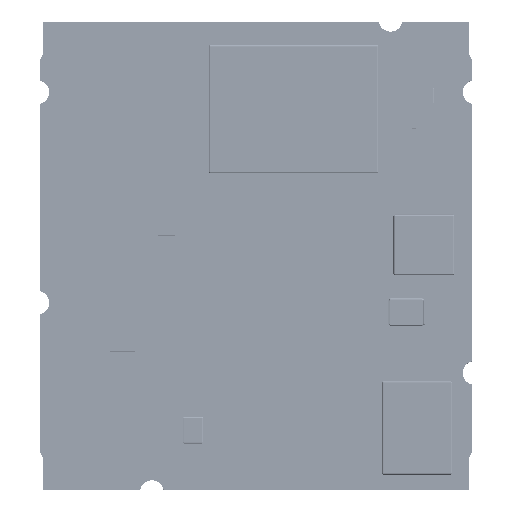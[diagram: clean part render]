
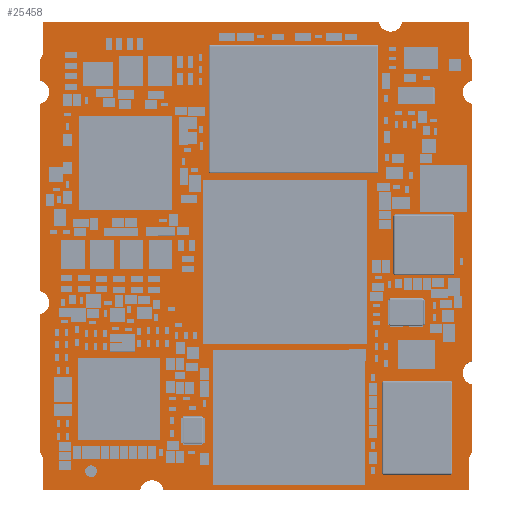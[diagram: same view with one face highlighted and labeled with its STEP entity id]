
A CAD part, top view. The second image highlights one B-rep face of the part: STEP entity #25458.
In plain terms, the highlighted planar face has unit normal (0, 0, 1).
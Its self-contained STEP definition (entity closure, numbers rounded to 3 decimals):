
#25458=ADVANCED_FACE('',(#46320),#46321,.T.);
#46320=FACE_OUTER_BOUND('',#70003,.T.);
#46321=PLANE('',#70004);
#70003=EDGE_LOOP('',(#99988,#99989,#99990,#99991,#99992,#99993,#99994,#99995,#99996,#99997,#99998,#99999,#100000,#100001,#100002,#100003,#100004,#100005,#100006,#100007,#100008,#100009,#100010,#100011));
#70004=AXIS2_PLACEMENT_3D('',#100012,#100013,#100014);
#99988=ORIENTED_EDGE('',*,*,#111523,.T.);
#99989=ORIENTED_EDGE('',*,*,#111531,.T.);
#99990=ORIENTED_EDGE('',*,*,#111518,.T.);
#99991=ORIENTED_EDGE('',*,*,#111532,.T.);
#99992=ORIENTED_EDGE('',*,*,#111533,.T.);
#99993=ORIENTED_EDGE('',*,*,#111534,.T.);
#99994=ORIENTED_EDGE('',*,*,#111535,.T.);
#99995=ORIENTED_EDGE('',*,*,#111536,.T.);
#99996=ORIENTED_EDGE('',*,*,#111537,.T.);
#99997=ORIENTED_EDGE('',*,*,#111538,.T.);
#99998=ORIENTED_EDGE('',*,*,#111539,.T.);
#99999=ORIENTED_EDGE('',*,*,#111540,.T.);
#100000=ORIENTED_EDGE('',*,*,#111541,.T.);
#100001=ORIENTED_EDGE('',*,*,#111542,.T.);
#100002=ORIENTED_EDGE('',*,*,#111543,.T.);
#100003=ORIENTED_EDGE('',*,*,#111544,.T.);
#100004=ORIENTED_EDGE('',*,*,#111545,.T.);
#100005=ORIENTED_EDGE('',*,*,#111546,.T.);
#100006=ORIENTED_EDGE('',*,*,#111547,.T.);
#100007=ORIENTED_EDGE('',*,*,#111528,.T.);
#100008=ORIENTED_EDGE('',*,*,#111548,.T.);
#100009=ORIENTED_EDGE('',*,*,#111549,.T.);
#100010=ORIENTED_EDGE('',*,*,#111550,.T.);
#100011=ORIENTED_EDGE('',*,*,#111551,.T.);
#100012=CARTESIAN_POINT('',(18.213,20.072,1.825));
#100013=DIRECTION('',(0.,0.,1.0));
#100014=DIRECTION('',(1.0,0.0,0.));
#111518=EDGE_CURVE('',#124687,#124685,#124688,.T.);
#111523=EDGE_CURVE('',#124696,#124694,#124697,.T.);
#111528=EDGE_CURVE('',#124705,#124703,#124706,.T.);
#111531=EDGE_CURVE('',#124694,#124687,#124709,.T.);
#111532=EDGE_CURVE('',#124685,#124710,#124711,.T.);
#111533=EDGE_CURVE('',#124710,#124712,#124713,.T.);
#111534=EDGE_CURVE('',#124712,#124714,#124715,.T.);
#111535=EDGE_CURVE('',#124714,#124716,#124717,.T.);
#111536=EDGE_CURVE('',#124716,#124718,#124719,.T.);
#111537=EDGE_CURVE('',#124718,#124720,#124721,.T.);
#111538=EDGE_CURVE('',#124720,#124722,#124723,.T.);
#111539=EDGE_CURVE('',#124722,#124724,#124725,.T.);
#111540=EDGE_CURVE('',#124724,#124726,#124727,.T.);
#111541=EDGE_CURVE('',#124726,#124728,#124729,.T.);
#111542=EDGE_CURVE('',#124728,#124730,#124731,.T.);
#111543=EDGE_CURVE('',#124730,#124732,#124733,.T.);
#111544=EDGE_CURVE('',#124732,#124734,#124735,.T.);
#111545=EDGE_CURVE('',#124734,#124736,#124737,.T.);
#111546=EDGE_CURVE('',#124736,#124738,#124739,.T.);
#111547=EDGE_CURVE('',#124738,#124705,#124740,.T.);
#111548=EDGE_CURVE('',#124703,#124741,#124742,.T.);
#111549=EDGE_CURVE('',#124741,#124743,#124744,.T.);
#111550=EDGE_CURVE('',#124743,#124745,#124746,.T.);
#111551=EDGE_CURVE('',#124745,#124696,#124747,.T.);
#124685=VERTEX_POINT('',#140691);
#124687=VERTEX_POINT('',#140694);
#124688=CIRCLE('',#140695,1.025);
#124694=VERTEX_POINT('',#140702);
#124696=VERTEX_POINT('',#140705);
#124697=CIRCLE('',#140706,1.025);
#124703=VERTEX_POINT('',#140713);
#124705=VERTEX_POINT('',#140716);
#124706=CIRCLE('',#140717,1.025);
#124709=LINE('',#140721,#140722);
#124710=VERTEX_POINT('',#140723);
#124711=LINE('',#140724,#140725);
#124712=VERTEX_POINT('',#140726);
#124713=CIRCLE('',#140727,1.);
#124714=VERTEX_POINT('',#140728);
#124715=LINE('',#140729,#140730);
#124716=VERTEX_POINT('',#140731);
#124717=LINE('',#140732,#140733);
#124718=VERTEX_POINT('',#140734);
#124719=CIRCLE('',#140735,1.025);
#124720=VERTEX_POINT('',#140736);
#124721=LINE('',#140737,#140738);
#124722=VERTEX_POINT('',#140739);
#124723=LINE('',#140740,#140741);
#124724=VERTEX_POINT('',#140742);
#124725=CIRCLE('',#140743,1.0);
#124726=VERTEX_POINT('',#140744);
#124727=LINE('',#140745,#140746);
#124728=VERTEX_POINT('',#140747);
#124729=CIRCLE('',#140748,1.025);
#124730=VERTEX_POINT('',#140749);
#124731=LINE('',#140750,#140751);
#124732=VERTEX_POINT('',#140752);
#124733=CIRCLE('',#140753,1.025);
#124734=VERTEX_POINT('',#140754);
#124735=LINE('',#140755,#140756);
#124736=VERTEX_POINT('',#140757);
#124737=CIRCLE('',#140758,1.);
#124738=VERTEX_POINT('',#140759);
#124739=LINE('',#140760,#140761);
#124740=LINE('',#140762,#140763);
#124741=VERTEX_POINT('',#140764);
#124742=LINE('',#140765,#140766);
#124743=VERTEX_POINT('',#140767);
#124744=LINE('',#140768,#140769);
#124745=VERTEX_POINT('',#140770);
#124746=CIRCLE('',#140771,1.0);
#124747=LINE('',#140772,#140773);
#140691=CARTESIAN_POINT('',(-0.3,14.995,1.825));
#140694=CARTESIAN_POINT('',(-0.3,17.005,1.825));
#140695=AXIS2_PLACEMENT_3D('',#154691,#154692,#154693);
#140702=CARTESIAN_POINT('',(-0.3,32.995,1.825));
#140705=CARTESIAN_POINT('',(-0.3,35.005,1.825));
#140706=AXIS2_PLACEMENT_3D('',#154699,#154700,#154701);
#140713=CARTESIAN_POINT('',(28.695,40.0,1.825));
#140716=CARTESIAN_POINT('',(30.705,40.0,1.825));
#140717=AXIS2_PLACEMENT_3D('',#154707,#154708,#154709);
#140721=CARTESIAN_POINT('',(-0.3,25.0,1.825));
#140722=VECTOR('',#154711,1.0);
#140723=CARTESIAN_POINT('',(-0.3,3.214,1.825));
#140724=CARTESIAN_POINT('',(-0.3,9.104,1.825));
#140725=VECTOR('',#154712,1.0);
#140726=CARTESIAN_POINT('',(0.,2.5,1.825));
#140727=AXIS2_PLACEMENT_3D('',#154713,#154714,#154715);
#140728=CARTESIAN_POINT('',(0.,0.,1.825));
#140729=CARTESIAN_POINT('',(0.,1.25,1.825));
#140730=VECTOR('',#154716,1.0);
#140731=CARTESIAN_POINT('',(8.295,0.,1.825));
#140732=CARTESIAN_POINT('',(4.147,0.,1.825));
#140733=VECTOR('',#154717,1.0);
#140734=CARTESIAN_POINT('',(10.305,0.,1.825));
#140735=AXIS2_PLACEMENT_3D('',#154718,#154719,#154720);
#140736=CARTESIAN_POINT('',(36.4,0.,1.825));
#140737=CARTESIAN_POINT('',(23.353,0.,1.825));
#140738=VECTOR('',#154721,1.0);
#140739=CARTESIAN_POINT('',(36.4,2.5,1.825));
#140740=CARTESIAN_POINT('',(36.4,1.25,1.825));
#140741=VECTOR('',#154722,1.0);
#140742=CARTESIAN_POINT('',(36.7,3.214,1.825));
#140743=AXIS2_PLACEMENT_3D('',#154723,#154724,#154725);
#140744=CARTESIAN_POINT('',(36.7,8.995,1.825));
#140745=CARTESIAN_POINT('',(36.7,6.104,1.825));
#140746=VECTOR('',#154726,1.0);
#140747=CARTESIAN_POINT('',(36.7,11.005,1.825));
#140748=AXIS2_PLACEMENT_3D('',#154727,#154728,#154729);
#140749=CARTESIAN_POINT('',(36.7,32.995,1.825));
#140750=CARTESIAN_POINT('',(36.7,22.0,1.825));
#140751=VECTOR('',#154730,1.0);
#140752=CARTESIAN_POINT('',(36.7,35.005,1.825));
#140753=AXIS2_PLACEMENT_3D('',#154731,#154732,#154733);
#140754=CARTESIAN_POINT('',(36.7,36.786,1.825));
#140755=CARTESIAN_POINT('',(36.7,35.896,1.825));
#140756=VECTOR('',#154734,1.0);
#140757=CARTESIAN_POINT('',(36.4,37.5,1.825));
#140758=AXIS2_PLACEMENT_3D('',#154735,#154736,#154737);
#140759=CARTESIAN_POINT('',(36.4,40.0,1.825));
#140760=CARTESIAN_POINT('',(36.4,38.75,1.825));
#140761=VECTOR('',#154738,1.0);
#140762=CARTESIAN_POINT('',(33.553,40.0,1.825));
#140763=VECTOR('',#154739,1.0);
#140764=CARTESIAN_POINT('',(0.,40.0,1.825));
#140765=CARTESIAN_POINT('',(14.347,40.0,1.825));
#140766=VECTOR('',#154740,1.0);
#140767=CARTESIAN_POINT('',(0.,37.5,1.825));
#140768=CARTESIAN_POINT('',(0.,38.75,1.825));
#140769=VECTOR('',#154741,1.0);
#140770=CARTESIAN_POINT('',(-0.3,36.786,1.825));
#140771=AXIS2_PLACEMENT_3D('',#154742,#154743,#154744);
#140772=CARTESIAN_POINT('',(-0.3,35.896,1.825));
#140773=VECTOR('',#154745,1.0);
#154691=CARTESIAN_POINT('',(-0.5,16.0,1.825));
#154692=DIRECTION('',(0.0,0.0,-1.0));
#154693=DIRECTION('',(0.195,0.981,0.0));
#154699=CARTESIAN_POINT('',(-0.5,34.0,1.825));
#154700=DIRECTION('',(0.0,0.0,-1.0));
#154701=DIRECTION('',(0.195,0.981,0.0));
#154707=CARTESIAN_POINT('',(29.7,40.2,1.825));
#154708=DIRECTION('',(0.0,0.0,-1.0));
#154709=DIRECTION('',(0.981,-0.195,0.0));
#154711=DIRECTION('',(0.,-1.0,0.0));
#154712=DIRECTION('',(0.,-1.0,0.0));
#154713=CARTESIAN_POINT('',(-1.0,2.5,1.825));
#154714=DIRECTION('',(0.0,0.0,-1.0));
#154715=DIRECTION('',(0.7,0.714,0.0));
#154716=DIRECTION('',(0.,-1.,0.0));
#154717=DIRECTION('',(1.0,0.0,0.0));
#154718=CARTESIAN_POINT('',(9.3,-0.2,1.825));
#154719=DIRECTION('',(0.0,0.0,-1.0));
#154720=DIRECTION('',(-0.981,0.195,0.0));
#154721=DIRECTION('',(1.0,0.,0.0));
#154722=DIRECTION('',(0.0,1.0,0.0));
#154723=CARTESIAN_POINT('',(37.4,2.5,1.825));
#154724=DIRECTION('',(0.0,0.0,-1.0));
#154725=DIRECTION('',(-1.0,0.0,0.0));
#154726=DIRECTION('',(0.,1.0,0.0));
#154727=CARTESIAN_POINT('',(36.9,10.0,1.825));
#154728=DIRECTION('',(-0.0,0.0,-1.0));
#154729=DIRECTION('',(-0.195,-0.981,0.0));
#154730=DIRECTION('',(0.0,1.0,0.0));
#154731=CARTESIAN_POINT('',(36.9,34.0,1.825));
#154732=DIRECTION('',(-0.0,0.0,-1.0));
#154733=DIRECTION('',(-0.195,-0.981,0.0));
#154734=DIRECTION('',(0.0,1.0,0.0));
#154735=CARTESIAN_POINT('',(37.4,37.5,1.825));
#154736=DIRECTION('',(-0.0,0.0,-1.0));
#154737=DIRECTION('',(-0.7,-0.714,0.0));
#154738=DIRECTION('',(0.,1.,0.0));
#154739=DIRECTION('',(-1.0,0.0,0.0));
#154740=DIRECTION('',(-1.0,0.0,0.0));
#154741=DIRECTION('',(0.0,-1.0,0.0));
#154742=CARTESIAN_POINT('',(-1.0,37.5,1.825));
#154743=DIRECTION('',(0.0,0.0,-1.0));
#154744=DIRECTION('',(1.0,0.0,0.0));
#154745=DIRECTION('',(0.,-1.,0.0));
